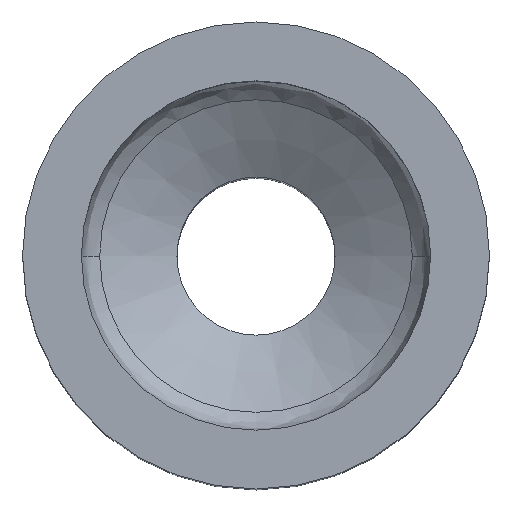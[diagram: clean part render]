
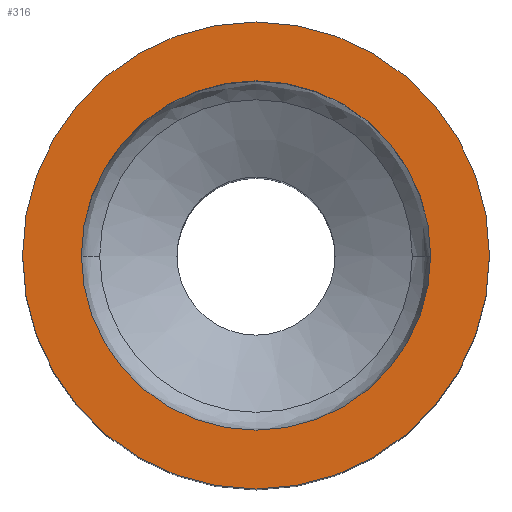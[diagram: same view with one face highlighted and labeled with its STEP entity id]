
A CAD part, top view. The second image highlights one B-rep face of the part: STEP entity #316.
In plain terms, the highlighted planar face has unit normal (0, 0, 1).
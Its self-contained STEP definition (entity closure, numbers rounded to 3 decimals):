
#17 = CARTESIAN_POINT ( 'NONE',  ( -6.35, 0., 0. ) ) ;
#24 = VERTEX_POINT ( 'NONE', #35 ) ;
#33 = VERTEX_POINT ( 'NONE', #17 ) ;
#35 = CARTESIAN_POINT ( 'NONE',  ( -4.75, 0., 0. ) ) ;
#105 = FACE_OUTER_BOUND ( 'NONE', #450, .T. ) ;
#113 = FACE_BOUND ( 'NONE', #451, .T. ) ;
#145 = DIRECTION ( 'NONE',  ( 1., 0., 0. ) ) ;
#147 = DIRECTION ( 'NONE',  ( 0., 0., 1. ) ) ;
#148 = CARTESIAN_POINT ( 'NONE',  ( -6.426, -6.426, 0. ) ) ;
#149 = PLANE ( 'NONE',  #568 ) ;
#270 = EDGE_CURVE ( 'NONE', #33, #33, #271, .T. ) ;
#271 = CIRCLE ( 'NONE', #552, 6.35 ) ;
#276 = EDGE_CURVE ( 'NONE', #24, #24, #320, .T. ) ;
#316 = ADVANCED_FACE ( 'NONE', ( #113, #105 ), #149, .T. ) ;
#320 = CIRCLE ( 'NONE', #538, 4.75 ) ;
#372 = ORIENTED_EDGE ( 'NONE', *, *, #270, .T. ) ;
#404 = DIRECTION ( 'NONE',  ( -1., 0., 0. ) ) ;
#405 = DIRECTION ( 'NONE',  ( 0., 0., -1. ) ) ;
#406 = CARTESIAN_POINT ( 'NONE',  ( 0., 0., 0. ) ) ;
#423 = DIRECTION ( 'NONE',  ( -1., 0., 0. ) ) ;
#424 = DIRECTION ( 'NONE',  ( 0., 0., 1. ) ) ;
#426 = CARTESIAN_POINT ( 'NONE',  ( 0., 0., 0. ) ) ;
#450 = EDGE_LOOP ( 'NONE', ( #372 ) ) ;
#451 = EDGE_LOOP ( 'NONE', ( #495 ) ) ;
#495 = ORIENTED_EDGE ( 'NONE', *, *, #276, .T. ) ;
#538 = AXIS2_PLACEMENT_3D ( 'NONE', #406, #405, #404 ) ;
#552 = AXIS2_PLACEMENT_3D ( 'NONE', #426, #424, #423 ) ;
#568 = AXIS2_PLACEMENT_3D ( 'NONE', #148, #147, #145 ) ;
